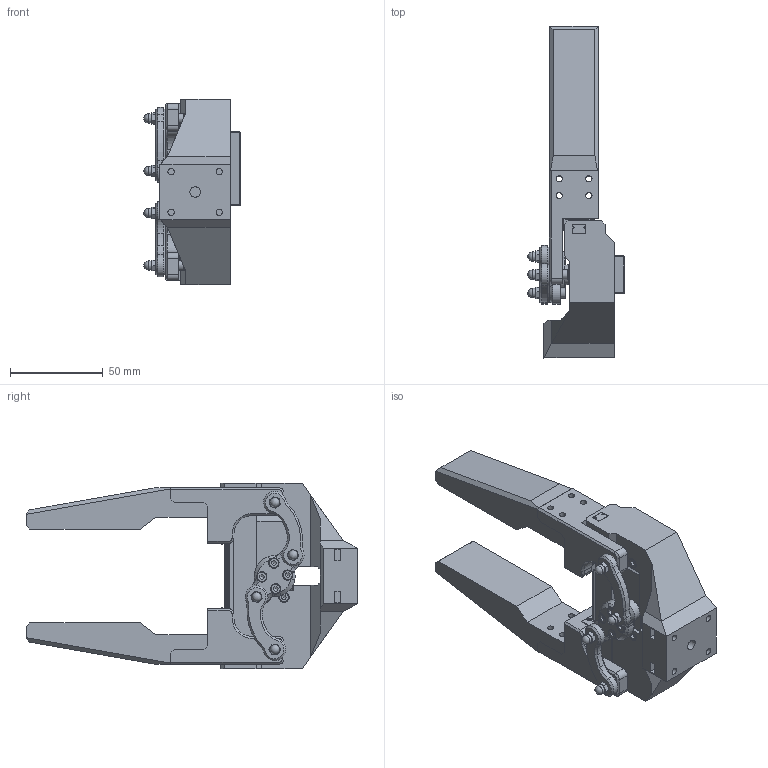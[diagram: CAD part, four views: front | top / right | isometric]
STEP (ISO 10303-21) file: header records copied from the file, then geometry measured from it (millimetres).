
FILE_DESCRIPTION(/* description */ ('STEP AP203'),/* implementation_level */ '2;1');
FILE_NAME(/* name */ 'gripper leve MGN7C TD9512.stp',/* time_stamp */ '2025-12-17T18:33:45+01:00',/* author */ ('R5800u'),/* organization */ (''),/* preprocessor_version */ 'ST-DEVELOPER v20',/* originating_system */ 'Autodesk Inventor 2025',/* authorisation */ '');
FILE_SCHEMA (('AUTOMOTIVE_DESIGN { 1 0 10303 214 3 1 1 }'));
Length unit declared in the file: millimetre
Products named in the file (18): gripper leve 2; MGN7 rail_100 mm; MGN7C_MGN7C; blocco_dito; blocco_dito_MIR; leva; TD-9512MG; blocco_dito2; 金属舵盘（驱动）; AS 1420 - 1973 - M3 x 6; AS 1420 - 1973 - M3 x 16; AS 1420 - 1973 - M3 x 14; UN 5721 - M3; frame; AS 1420 - 1973 - M3 x 12; AS 1112 - M3  Tipo 5; dito; dito_MIR
Assembly tree (31 placements, depth 2):
  gripper leve 2
    MGN7 rail_100 mm
    MGN7C_MGN7C  x2
    blocco_dito
    blocco_dito_MIR
    leva  x2
    TD-9512MG
    blocco_dito2
    金属舵盘（驱动）
    AS 1420 - 1973 - M3 x 6  x4
    AS 1420 - 1973 - M3 x 16  x2
    AS 1420 - 1973 - M3 x 14  x2
    UN 5721 - M3  x4
    frame
    AS 1420 - 1973 - M3 x 12  x4
    AS 1112 - M3  Tipo 5  x2
    dito
    dito_MIR
Bounding box: 51.98 x 179.1 x 100 mm (x, y, z)
Volume: 251673.6 mm3; surface area: 79388.2 mm2
Topology: 49 solids, 49 shells, 1567 faces, 3963 edges, 2525 vertices
Faces by surface type: plane 925, cylinder 342, cone 193, sphere 63, torus 36, bspline 8
Full cylindrical faces by diameter (mm): 0.8 x8, 1.6 x8, 2.4 x7, 2.459 x7, 2.5 x4, 2.659 x8, 3 x12, 3.2 x7, 3.4 x44, 4.2 x7, 4.901 x1, 5 x4, 5.5 x13, 5.6 x16, 5.7 x2, 6.2 x1, 10 x1, 10.6 x1, 19.2 x1
Entity records: 33276 total; most frequent: CARTESIAN_POINT 6062, DIRECTION 5546, ORIENTED_EDGE 5390, EDGE_CURVE 2695, AXIS2_PLACEMENT_3D 1904, LINE 1738, VECTOR 1738, VERTEX_POINT 1714
